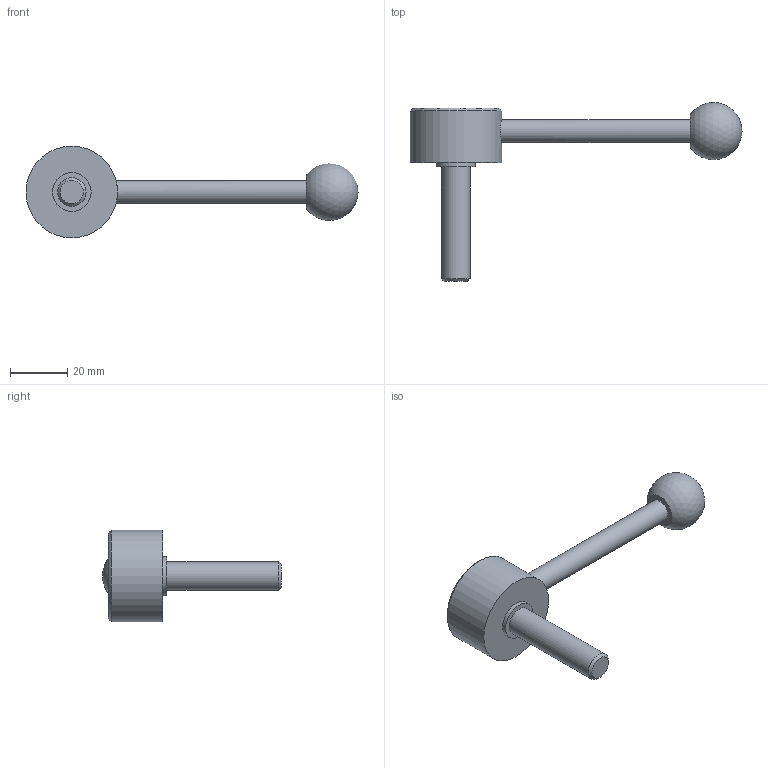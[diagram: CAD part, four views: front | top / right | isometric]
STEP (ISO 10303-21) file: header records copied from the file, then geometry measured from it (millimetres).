
FILE_DESCRIPTION( ( 'STEP AP203' ), '1' );
FILE_NAME( 'C:/Temp/Ganter_Step_05_03_2020/data/2_1/gn_125/gn_125_ms/gn_125_ms_d/Flat Adjustable Lever GN 125-32-M10-40-D.stp', '2020-03-05T11:00:46', ( 'License CC BY-ND 4.0' ), ( 'CADENAS' ), ' ', 'PARTsolutions', ' ' );
FILE_SCHEMA( ( 'CONFIG_CONTROL_DESIGN' ) );
Length unit declared in the file: millimetre
Products named in the file (1): _Flat Adjustable Lever GN 125-32-M10-40-D
Bounding box: 116 x 62.43 x 32 mm (x, y, z)
Volume: 25875.8 mm3; surface area: 7586.2 mm2
Topology: 1 solids, 1 shells, 14 faces, 23 edges, 15 vertices
Faces by surface type: plane 6, cylinder 5, cone 2, sphere 1
Full cylindrical faces by diameter (mm): 8 x1, 10 x1, 13.5 x1, 22 x1, 32 x1
Entity records: 384 total; most frequent: CARTESIAN_POINT 107, DIRECTION 54, AXIS2_PLACEMENT_3D 27, EDGE_LOOP 26, ORIENTED_EDGE 26, FACE_OUTER_BOUND 19, ADVANCED_FACE 14, VERTEX_POINT 14
